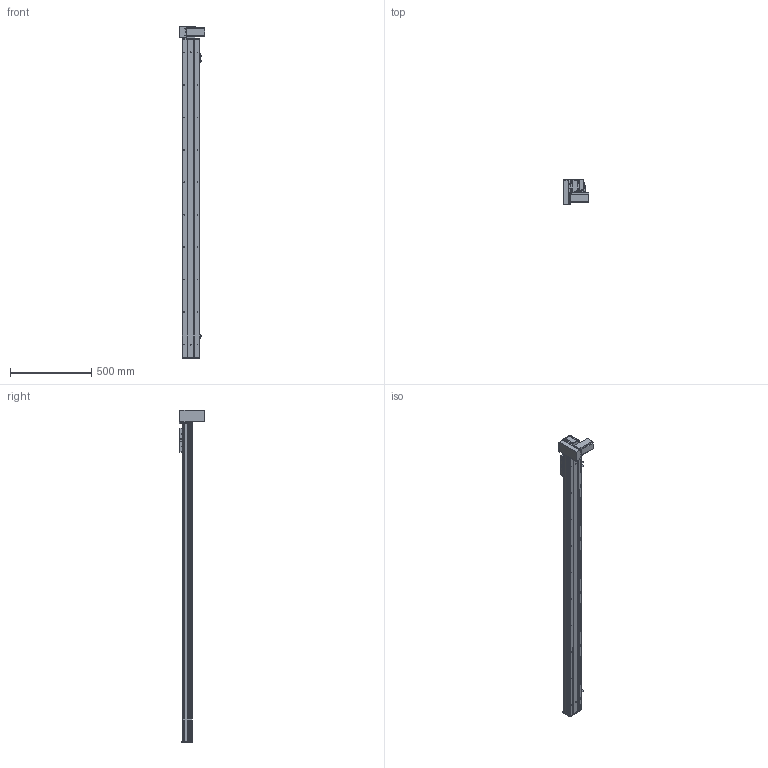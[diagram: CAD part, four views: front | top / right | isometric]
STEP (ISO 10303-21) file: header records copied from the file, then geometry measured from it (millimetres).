
FILE_DESCRIPTION (( 'STEP AP203' ), '1' );
FILE_NAME ('Y10CB-D90-S1700-BM-P400W.STEP', '2020-02-17T01:49:51', ( '微软用户' ), ( '微软中国' ), 'SwSTEP 2.0', 'SolidWorks 2017', '' );
FILE_SCHEMA (( 'CONFIG_CONTROL_DESIGN' ));
Length unit declared in the file: millimetre
Products named in the file (18): Y100-135俋离換覜ん--; 0B-源倛裔啣; Y10B--々湍喘謫眊--666; 0B-埴倛裔啣; 00B-俋欶BM--; 10CB-詩湍-; Y10B-耜蚾蟀諉啣----; Y10CB- 掛极耜裔啣-毀---; 0CB-雄赽釱---; Y10CB-D90-S1700-BM-P400W; Y10C---詩湍揤啣; 0Cb-俋欶---; 10CB9-掛极; Y10B-々湍喘謫眊楊擘啣--; 10CB-耜裔; 0B-萇儂楊擘啣; Y135C-陔俋离換覜結え-; san松下电机400不带刹车----
Assembly tree (21 placements, depth 2):
  Y10CB-D90-S1700-BM-P400W
    0CB-雄赽釱---
    0Cb-俋欶---
    Y10B-々湍喘謫眊楊擘啣--
    0B-萇儂楊擘啣
    san松下电机400不带刹车----
    0B-源倛裔啣
    0B-埴倛裔啣
    10CB-詩湍-
    Y10CB- 掛极耜裔啣-毀---  x2
    Y10C---詩湍揤啣  x2
    10CB9-掛极
    10CB-耜裔
    Y135C-陔俋离換覜結え-
    Y100-135俋离換覜ん--  x3
    Y10B--々湍喘謫眊--666
    00B-俋欶BM--
    Y10B-耜蚾蟀諉啣----
Bounding box: 157 x 156 x 2046 mm (x, y, z)
Volume: 4357550 mm3; surface area: 2027708.7 mm2
Topology: 21 solids, 21 shells, 1026 faces, 2763 edges, 1802 vertices
Faces by surface type: cylinder 519, plane 483, cone 24
Entity records: 32412 total; most frequent: CARTESIAN_POINT 5913, DIRECTION 5202, ORIENTED_EDGE 4996, EDGE_CURVE 2498, AXIS2_PLACEMENT_3D 1861, VERTEX_POINT 1628, VECTOR 1480, LINE 1480
